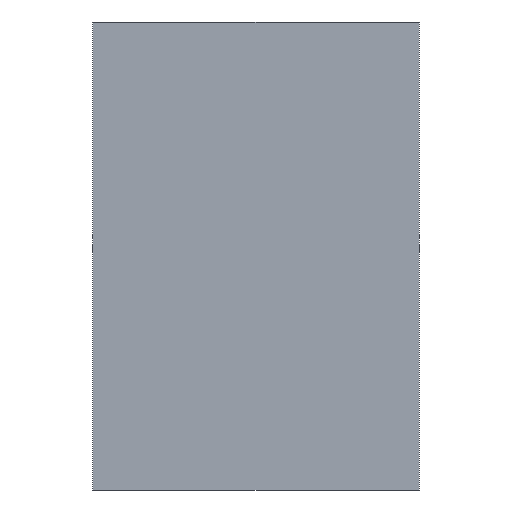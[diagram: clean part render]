
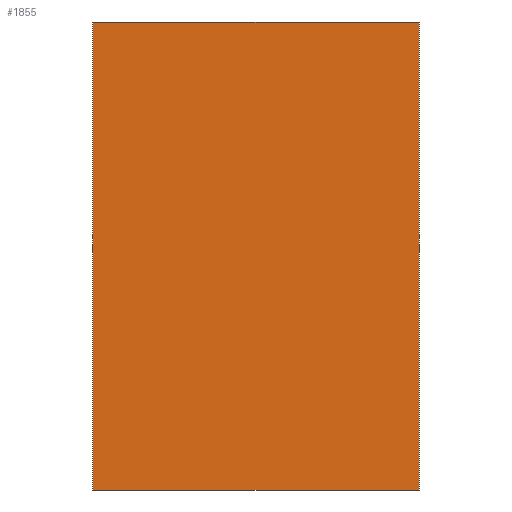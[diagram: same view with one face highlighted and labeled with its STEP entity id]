
A CAD part, front view. The second image highlights one B-rep face of the part: STEP entity #1855.
In plain terms, the highlighted planar face has unit normal (0, -1, 0).
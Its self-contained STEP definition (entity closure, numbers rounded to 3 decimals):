
#1855=ADVANCED_FACE('',(#2090),#2089,.T.);
#2089=PLANE('',#4052);
#2090=FACE_OUTER_BOUND('',#4053,.T.);
#4049=CARTESIAN_POINT('',(109.78,-9.,81.5));
#4050=DIRECTION('',(0.,-1.,0.));
#4051=DIRECTION('',(-1.,0.,0.));
#4052=AXIS2_PLACEMENT_3D('',#4049,#4050,#4051);
#4053=EDGE_LOOP('',(#5035,#5036,#5037,#5038));
#5035=ORIENTED_EDGE('',*,*,#5625,.F.);
#5036=ORIENTED_EDGE('',*,*,#5629,.T.);
#5037=ORIENTED_EDGE('',*,*,#5619,.F.);
#5038=ORIENTED_EDGE('',*,*,#5630,.F.);
#5619=EDGE_CURVE('',#5919,#5920,#5921,.T.);
#5625=EDGE_CURVE('',#5955,#5962,#5963,.T.);
#5629=EDGE_CURVE('',#5955,#5920,#5987,.T.);
#5630=EDGE_CURVE('',#5962,#5919,#5993,.T.);
#5919=VERTEX_POINT('',#7919);
#5920=VERTEX_POINT('',#7920);
#5921=LINE('',#7921,#7922);
#5955=VERTEX_POINT('',#7940);
#5962=VERTEX_POINT('',#7944);
#5963=LINE('',#7945,#7946);
#5987=LINE('',#7957,#7958);
#5993=LINE('',#7960,#7961);
#7919=CARTESIAN_POINT('',(0.,-9.,71.5));
#7920=CARTESIAN_POINT('',(99.8,-9.,71.5));
#7921=CARTESIAN_POINT('',(0.,-9.,71.5));
#7922=VECTOR('',#7923,99.8);
#7923=DIRECTION('',(1.,0.,0.));
#7940=CARTESIAN_POINT('',(99.8,-9.,-71.5));
#7944=CARTESIAN_POINT('',(0.,-9.,-71.5));
#7945=CARTESIAN_POINT('',(99.8,-9.,-71.5));
#7946=VECTOR('',#7947,99.8);
#7947=DIRECTION('',(-1.,0.,0.));
#7957=CARTESIAN_POINT('',(99.8,-9.,-71.5));
#7958=VECTOR('',#7959,143.);
#7959=DIRECTION('',(0.,0.,1.));
#7960=CARTESIAN_POINT('',(0.,-9.,-71.5));
#7961=VECTOR('',#7962,143.);
#7962=DIRECTION('',(0.,0.,1.));
